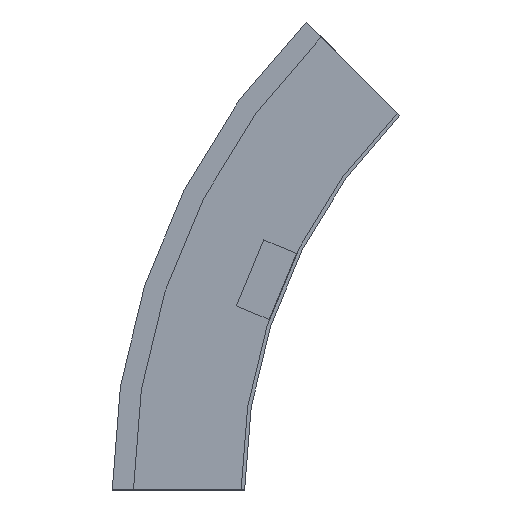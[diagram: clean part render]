
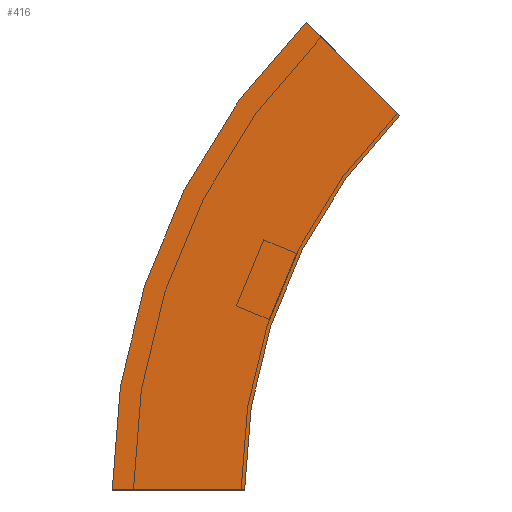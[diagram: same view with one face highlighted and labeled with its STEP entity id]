
A CAD part, left-side view. The second image highlights one B-rep face of the part: STEP entity #416.
In plain terms, the highlighted planar face has unit normal (-1, 0, 0) as drawn and (1, 0, 0) by its records, which use the part's own axes.
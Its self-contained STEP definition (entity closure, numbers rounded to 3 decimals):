
#4 = EDGE_CURVE ( 'NONE', #200, #46, #187, .T. ) ;
#8 = DIRECTION ( 'NONE',  ( 0., 0.707, 0.707 ) ) ;
#27 = LINE ( 'NONE', #353, #99 ) ;
#42 = CARTESIAN_POINT ( 'NONE',  ( 0., -34.835, 265.165 ) ) ;
#46 = VERTEX_POINT ( 'NONE', #115 ) ;
#89 = ORIENTED_EDGE ( 'NONE', *, *, #401, .T. ) ;
#99 = VECTOR ( 'NONE', #393, 1000. ) ;
#107 = AXIS2_PLACEMENT_3D ( 'NONE', #485, #240, #313 ) ;
#115 = CARTESIAN_POINT ( 'NONE',  ( 0., -87.868, 212.132 ) ) ;
#120 = PLANE ( 'NONE',  #237 ) ;
#131 = ORIENTED_EDGE ( 'NONE', *, *, #335, .T. ) ;
#136 = CIRCLE ( 'NONE', #107, 375. ) ;
#159 = DIRECTION ( 'NONE',  ( 1., 0., 0. ) ) ;
#174 = CARTESIAN_POINT ( 'NONE',  ( 0., 0., 0. ) ) ;
#187 = CIRCLE ( 'NONE', #303, 300. ) ;
#200 = VERTEX_POINT ( 'NONE', #174 ) ;
#212 = CARTESIAN_POINT ( 'NONE',  ( 0., 0., 0. ) ) ;
#226 = EDGE_LOOP ( 'NONE', ( #131, #484, #536, #89 ) ) ;
#237 = AXIS2_PLACEMENT_3D ( 'NONE', #212, #159, #551 ) ;
#240 = DIRECTION ( 'NONE',  ( 1., 0., 0. ) ) ;
#263 = CARTESIAN_POINT ( 'NONE',  ( 0., -87.868, 212.132 ) ) ;
#273 = CARTESIAN_POINT ( 'NONE',  ( 0., -300., 0. ) ) ;
#303 = AXIS2_PLACEMENT_3D ( 'NONE', #273, #349, #493 ) ;
#313 = DIRECTION ( 'NONE',  ( 0., 1., 0. ) ) ;
#335 = EDGE_CURVE ( 'NONE', #527, #525, #136, .T. ) ;
#349 = DIRECTION ( 'NONE',  ( 1., 0., 0. ) ) ;
#353 = CARTESIAN_POINT ( 'NONE',  ( 0., 0., 0. ) ) ;
#382 = CARTESIAN_POINT ( 'NONE',  ( 0., 75., 0. ) ) ;
#393 = DIRECTION ( 'NONE',  ( 0., 1., 0. ) ) ;
#401 = EDGE_CURVE ( 'NONE', #200, #527, #27, .T. ) ;
#416 = ADVANCED_FACE ( 'NONE', ( #544 ), #120, .T. ) ;
#435 = LINE ( 'NONE', #263, #489 ) ;
#484 = ORIENTED_EDGE ( 'NONE', *, *, #528, .F. ) ;
#485 = CARTESIAN_POINT ( 'NONE',  ( 0., -300., 0. ) ) ;
#489 = VECTOR ( 'NONE', #8, 1000. ) ;
#493 = DIRECTION ( 'NONE',  ( 0., 1., 0. ) ) ;
#525 = VERTEX_POINT ( 'NONE', #42 ) ;
#527 = VERTEX_POINT ( 'NONE', #382 ) ;
#528 = EDGE_CURVE ( 'NONE', #46, #525, #435, .T. ) ;
#536 = ORIENTED_EDGE ( 'NONE', *, *, #4, .F. ) ;
#544 = FACE_OUTER_BOUND ( 'NONE', #226, .T. ) ;
#551 = DIRECTION ( 'NONE',  ( 0., 0., -1. ) ) ;
